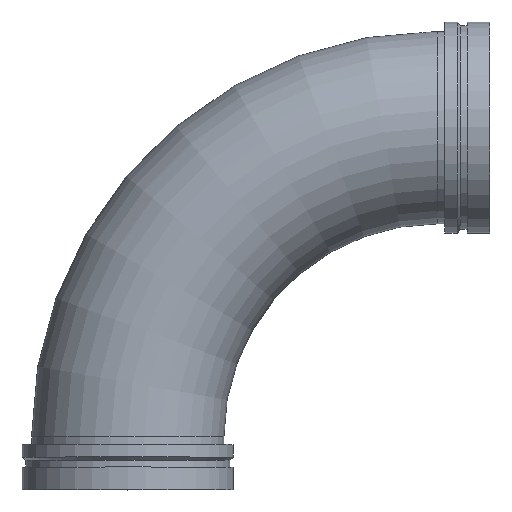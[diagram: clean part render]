
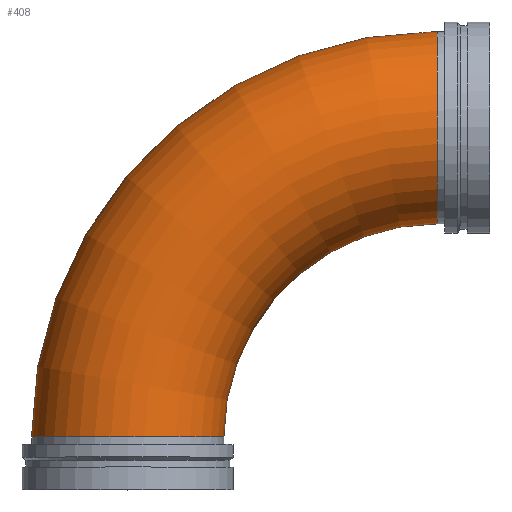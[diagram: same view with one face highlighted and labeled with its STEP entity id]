
A CAD part, top view. The second image highlights one B-rep face of the part: STEP entity #408.
In plain terms, the highlighted toroidal (fillet/blend) face has major radius 520.7 mm and minor radius 161.925 mm.
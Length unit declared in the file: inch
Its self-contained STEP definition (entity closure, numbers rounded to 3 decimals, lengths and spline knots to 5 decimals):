
#46=TOROIDAL_SURFACE('',#484,20.5,6.375);
#105=FACE_OUTER_BOUND('',#129,.T.);
#129=EDGE_LOOP('',(#346,#347,#348,#349,#350,#351));
#169=CIRCLE('',#482,6.375);
#170=CIRCLE('',#483,6.375);
#171=CIRCLE('',#485,14.125);
#172=CIRCLE('',#486,6.375);
#173=CIRCLE('',#487,6.375);
#207=VERTEX_POINT('',#756);
#208=VERTEX_POINT('',#758);
#209=VERTEX_POINT('',#762);
#210=VERTEX_POINT('',#764);
#256=EDGE_CURVE('',#207,#208,#169,.T.);
#257=EDGE_CURVE('',#208,#207,#170,.T.);
#258=EDGE_CURVE('',#208,#209,#171,.T.);
#259=EDGE_CURVE('',#209,#210,#172,.T.);
#260=EDGE_CURVE('',#210,#209,#173,.T.);
#346=ORIENTED_EDGE('',*,*,#256,.F.);
#347=ORIENTED_EDGE('',*,*,#257,.F.);
#348=ORIENTED_EDGE('',*,*,#258,.T.);
#349=ORIENTED_EDGE('',*,*,#259,.T.);
#350=ORIENTED_EDGE('',*,*,#260,.T.);
#351=ORIENTED_EDGE('',*,*,#258,.F.);
#408=ADVANCED_FACE('',(#105),#46,.T.);
#482=AXIS2_PLACEMENT_3D('',#759,#617,#618);
#483=AXIS2_PLACEMENT_3D('',#760,#619,#620);
#484=AXIS2_PLACEMENT_3D('',#761,#621,#622);
#485=AXIS2_PLACEMENT_3D('',#763,#623,#624);
#486=AXIS2_PLACEMENT_3D('',#765,#625,#626);
#487=AXIS2_PLACEMENT_3D('',#766,#627,#628);
#617=DIRECTION('center_axis',(1.,0.,0.));
#618=DIRECTION('ref_axis',(0.,-1.,0.));
#619=DIRECTION('center_axis',(1.,0.,0.));
#620=DIRECTION('ref_axis',(0.,-1.,0.));
#621=DIRECTION('center_axis',(0.,0.,-1.));
#622=DIRECTION('ref_axis',(-1.,0.,0.));
#623=DIRECTION('center_axis',(0.,0.,1.));
#624=DIRECTION('ref_axis',(-1.,0.,0.));
#625=DIRECTION('center_axis',(0.,1.,0.));
#626=DIRECTION('ref_axis',(1.,0.,0.));
#627=DIRECTION('center_axis',(0.,1.,0.));
#628=DIRECTION('ref_axis',(1.,0.,0.));
#756=CARTESIAN_POINT('',(20.5,30.375,0.));
#758=CARTESIAN_POINT('',(20.5,17.625,0.));
#759=CARTESIAN_POINT('Origin',(20.5,24.,0.));
#760=CARTESIAN_POINT('Origin',(20.5,24.,0.));
#761=CARTESIAN_POINT('Origin',(20.5,3.5,0.));
#762=CARTESIAN_POINT('',(6.375,3.5,0.));
#763=CARTESIAN_POINT('Origin',(20.5,3.5,0.));
#764=CARTESIAN_POINT('',(-6.375,3.5,0.));
#765=CARTESIAN_POINT('Origin',(0.,3.5,0.));
#766=CARTESIAN_POINT('Origin',(0.,3.5,0.));
